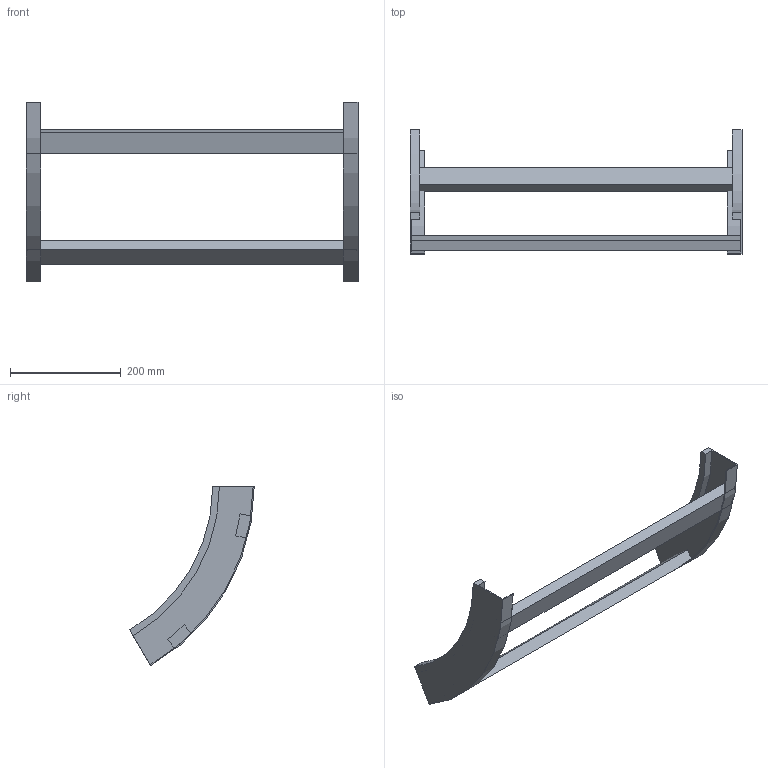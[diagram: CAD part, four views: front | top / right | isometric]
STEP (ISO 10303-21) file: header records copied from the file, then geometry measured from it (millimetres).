
FILE_DESCRIPTION (( 'STEP AP214' ), '1' );
FILE_NAME ('B2X40B3C600XX.step', '2025-03-20T10:18:01', ( '' ), ( '' ), 'SwSTEP 2.0', 'SolidWorks 2023', '' );
FILE_SCHEMA (( 'AUTOMOTIVE_DESIGN' ));
Length unit declared in the file: millimetre
Products named in the file (3): TRAVERSINO_600; B2_LONGH.SALITA_60°_H75_R300; B2X40B3C600XX
Assembly tree (4 placements, depth 2):
  B2X40B3C600XX
    B2_LONGH.SALITA_60°_H75_R300  x2
    TRAVERSINO_600  x2
Bounding box: 600 x 225 x 324.76 mm (x, y, z)
Volume: 1233763.8 mm3; surface area: 317569.7 mm2
Topology: 4 solids, 4 shells, 32 faces, 72 edges, 48 vertices
Faces by surface type: plane 24, cylinder 8
Entity records: 552 total; most frequent: DIRECTION 90, CARTESIAN_POINT 83, ORIENTED_EDGE 72, EDGE_CURVE 36, AXIS2_PLACEMENT_3D 31, VECTOR 28, LINE 28, VERTEX_POINT 24
